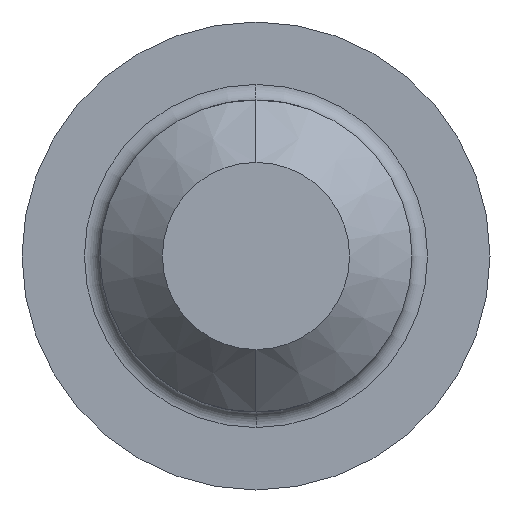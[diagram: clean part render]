
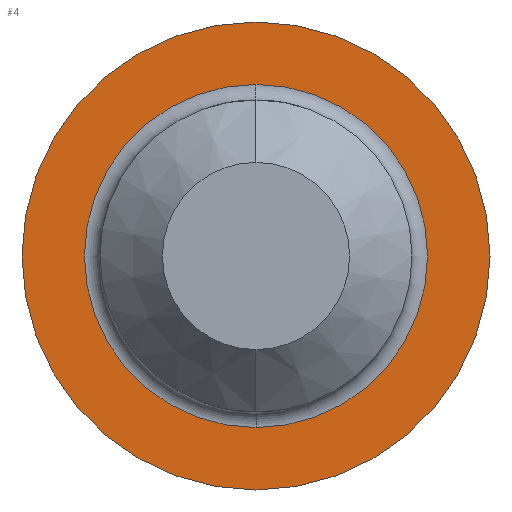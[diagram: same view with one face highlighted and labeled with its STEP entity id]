
A CAD part, left-side view. The second image highlights one B-rep face of the part: STEP entity #4.
In plain terms, the highlighted planar face has unit normal (-1, 0, 0).
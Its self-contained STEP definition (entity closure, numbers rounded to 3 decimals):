
#1 = EDGE_CURVE ( 'NONE', #39, #106, #358, .T. ) ;
#2 = ORIENTED_EDGE ( 'NONE', *, *, #67, .T. ) ;
#3 = ORIENTED_EDGE ( 'NONE', *, *, #291, .T. ) ;
#4 = ADVANCED_FACE ( 'NONE', ( #359, #209 ), #182, .F. ) ;
#39 = VERTEX_POINT ( 'NONE', #241 ) ;
#50 = VERTEX_POINT ( 'NONE', #234 ) ;
#67 = EDGE_CURVE ( 'NONE', #106, #39, #204, .T. ) ;
#101 = EDGE_LOOP ( 'NONE', ( #102, #3 ) ) ;
#102 = ORIENTED_EDGE ( 'NONE', *, *, #132, .T. ) ;
#106 = VERTEX_POINT ( 'NONE', #160 ) ;
#129 = VERTEX_POINT ( 'NONE', #421 ) ;
#132 = EDGE_CURVE ( 'NONE', #50, #129, #409, .T. ) ;
#154 = DIRECTION ( 'NONE',  ( 0., 0., -1. ) ) ;
#155 = DIRECTION ( 'NONE',  ( 1., 0., 0. ) ) ;
#156 = CARTESIAN_POINT ( 'NONE',  ( 0., 4.5, 0. ) ) ;
#157 = AXIS2_PLACEMENT_3D ( 'NONE', #156, #155, #154 ) ;
#160 = CARTESIAN_POINT ( 'NONE',  ( 0., 0., 3.3 ) ) ;
#178 = DIRECTION ( 'NONE',  ( 0., 0., -1. ) ) ;
#179 = DIRECTION ( 'NONE',  ( 1., 0., 0. ) ) ;
#180 = CARTESIAN_POINT ( 'NONE',  ( 0., 0., 0. ) ) ;
#181 = AXIS2_PLACEMENT_3D ( 'NONE', #180, #179, #178 ) ;
#182 = PLANE ( 'NONE',  #157 ) ;
#196 = DIRECTION ( 'NONE',  ( 0., 0., -1. ) ) ;
#197 = DIRECTION ( 'NONE',  ( 1., 0., 0. ) ) ;
#198 = AXIS2_PLACEMENT_3D ( 'NONE', #201, #197, #196 ) ;
#201 = CARTESIAN_POINT ( 'NONE',  ( 0., 0., 0. ) ) ;
#204 = CIRCLE ( 'NONE', #198, 3.3 ) ;
#209 = FACE_OUTER_BOUND ( 'NONE', #101, .T. ) ;
#234 = CARTESIAN_POINT ( 'NONE',  ( 0., 0., 4.5 ) ) ;
#241 = CARTESIAN_POINT ( 'NONE',  ( 0., 0., -3.3 ) ) ;
#290 = EDGE_LOOP ( 'NONE', ( #292, #2 ) ) ;
#291 = EDGE_CURVE ( 'NONE', #129, #50, #483, .T. ) ;
#292 = ORIENTED_EDGE ( 'NONE', *, *, #1, .T. ) ;
#358 = CIRCLE ( 'NONE', #181, 3.3 ) ;
#359 = FACE_BOUND ( 'NONE', #290, .T. ) ;
#409 = CIRCLE ( 'NONE', #475, 4.5 ) ;
#421 = CARTESIAN_POINT ( 'NONE',  ( 0., 0., -4.5 ) ) ;
#441 = DIRECTION ( 'NONE',  ( 0., 0., 1. ) ) ;
#442 = DIRECTION ( 'NONE',  ( -1., 0., 0. ) ) ;
#453 = CARTESIAN_POINT ( 'NONE',  ( 0., 0., 0. ) ) ;
#455 = DIRECTION ( 'NONE',  ( 0., 0., 1. ) ) ;
#456 = DIRECTION ( 'NONE',  ( -1., 0., 0. ) ) ;
#457 = CARTESIAN_POINT ( 'NONE',  ( 0., 0., 0. ) ) ;
#475 = AXIS2_PLACEMENT_3D ( 'NONE', #457, #456, #455 ) ;
#483 = CIRCLE ( 'NONE', #488, 4.5 ) ;
#488 = AXIS2_PLACEMENT_3D ( 'NONE', #453, #442, #441 ) ;
